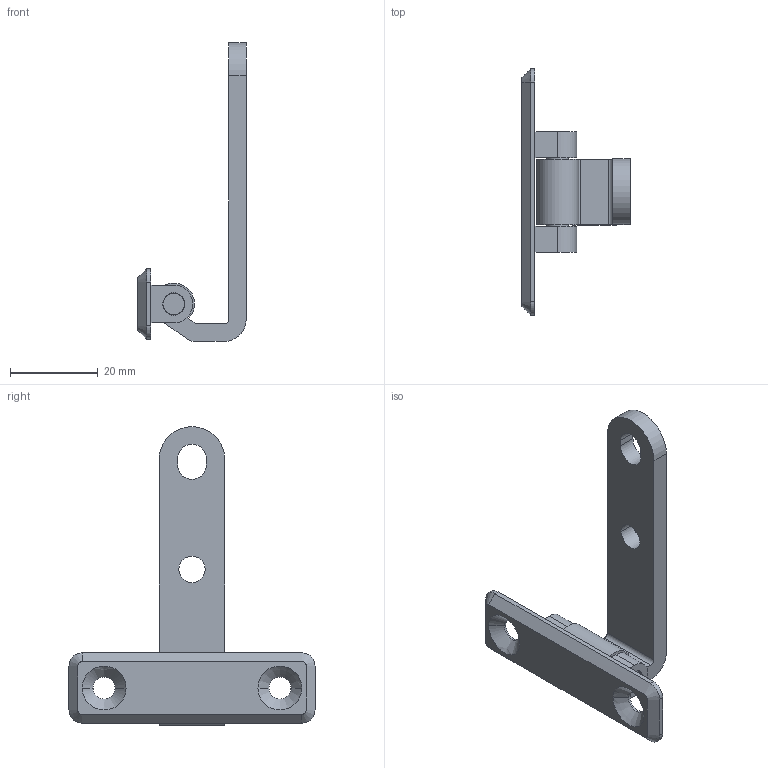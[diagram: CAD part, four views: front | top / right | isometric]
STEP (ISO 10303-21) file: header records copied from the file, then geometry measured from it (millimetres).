
FILE_DESCRIPTION(/* description */ (''),/* implementation_level */ '2;1');
FILE_NAME(/* name */ 'JL016-1',/* time_stamp */ '2024-10-19T08:22:56+08:00',/* author */ (''),/* organization */ (''),/* preprocessor_version */ 'ST-DEVELOPER v19.2',/* originating_system */ 'Rhino 8.5',/* authorisation */ '');
FILE_SCHEMA (('CONFIG_CONTROL_DESIGN'));
Length unit declared in the file: millimetre
Products named in the file (1): Document
Bounding box: 24.68 x 56 x 68 mm (x, y, z)
Volume: 8384.3 mm3; surface area: 6870.9 mm2
Topology: 3 solids, 3 shells, 260 faces, 681 edges, 429 vertices
Faces by surface type: cylinder 159, plane 93, bspline 8
Entity records: 9235 total; most frequent: CARTESIAN_POINT 2764, ORIENTED_EDGE 1360, DIRECTION 1168, AXIS2_PLACEMENT_3D 710, EDGE_CURVE 680, CIRCLE 455, TRIMMED_CURVE 454, VERTEX_POINT 428
